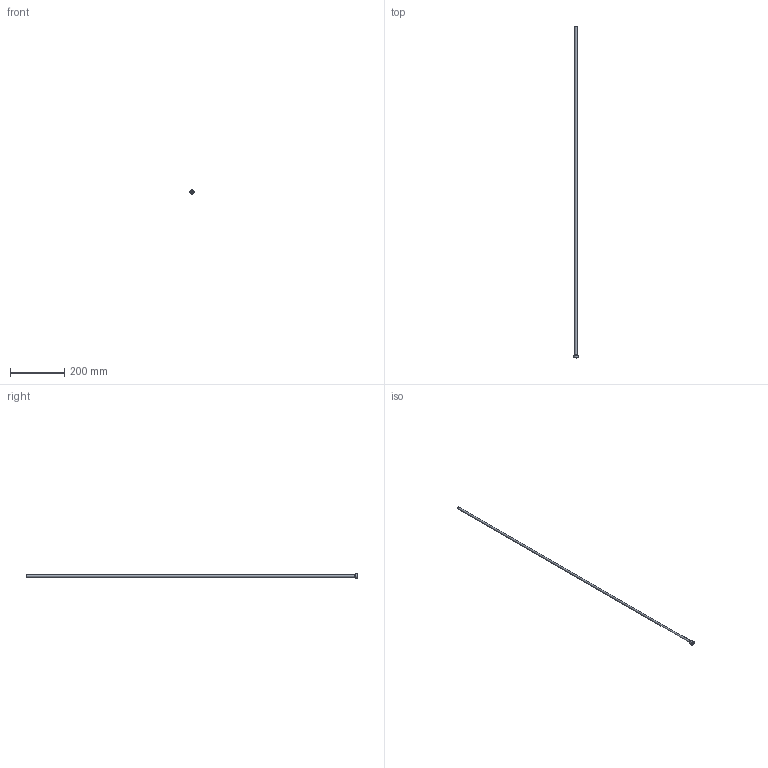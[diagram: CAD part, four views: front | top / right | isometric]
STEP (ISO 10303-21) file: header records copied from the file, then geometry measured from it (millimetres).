
FILE_DESCRIPTION(/* description */ (''),/* implementation_level */ '2;1');
FILE_NAME(/* name */ 'C:/Users/drich/Desktop/PT38-312-48 v1.step',/* time_stamp */ '2019-12-27T15:54:42-06:00',/* author */ (''),/* organization */ (''),/* preprocessor_version */ 'ST-DEVELOPER v18',/* originating_system */ 'Autodesk Translation Framework v8.12.0.6',/* authorisation */ '');
FILE_SCHEMA (('AUTOMOTIVE_DESIGN { 1 0 10303 214 3 1 1 }'));
Length unit declared in the file: inch
Products named in the file (1): PT38-312-48
Bounding box: 16.54 x 1219.2 x 16.54 mm (x, y, z)
Volume: 10631.7 mm3; surface area: 59008.4 mm2
Topology: 1 solids, 1 shells, 19 faces, 48 edges, 34 vertices
Faces by surface type: plane 11, cylinder 4, torus 2, cone 2
Full cylindrical faces by diameter (mm): 7.315 x1, 7.925 x1, 11.938 x1, 16.537 x1
Entity records: 633 total; most frequent: DIRECTION 112, CARTESIAN_POINT 102, ORIENTED_EDGE 96, EDGE_CURVE 48, AXIS2_PLACEMENT_3D 44, VERTEX_POINT 34, CIRCLE 24, EDGE_LOOP 24
